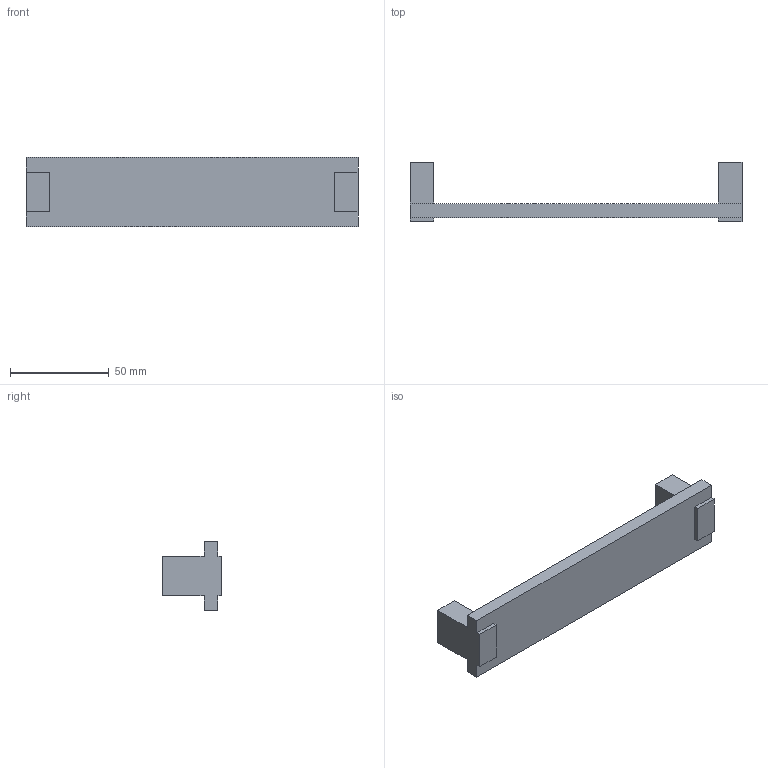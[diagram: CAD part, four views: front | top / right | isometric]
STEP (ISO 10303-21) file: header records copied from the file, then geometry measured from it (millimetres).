
FILE_DESCRIPTION( ( '' ), '1' );
FILE_NAME( 'C:/Documents and Settings/Sachin/Desktop/Sheet 10_1/stp/9113522.stp', '2013-10-22T12:46:06', ( '' ), ( '' ), ' ', ' ', ' ' );
FILE_SCHEMA( ( 'CONFIG_CONTROL_DESIGN' ) );
Length unit declared in the file: millimetre
Products named in the file (1): 1
Bounding box: 168 x 30 x 35 mm (x, y, z)
Volume: 51521.8 mm3; surface area: 17656.4 mm2
Topology: 1 solids, 1 shells, 28 faces, 72 edges, 48 vertices
Faces by surface type: plane 24, cylinder 4
Entity records: 888 total; most frequent: CARTESIAN_POINT 149, ORIENTED_EDGE 144, DIRECTION 138, EDGE_CURVE 72, LINE 64, VECTOR 64, VERTEX_POINT 48, AXIS2_PLACEMENT_3D 37
